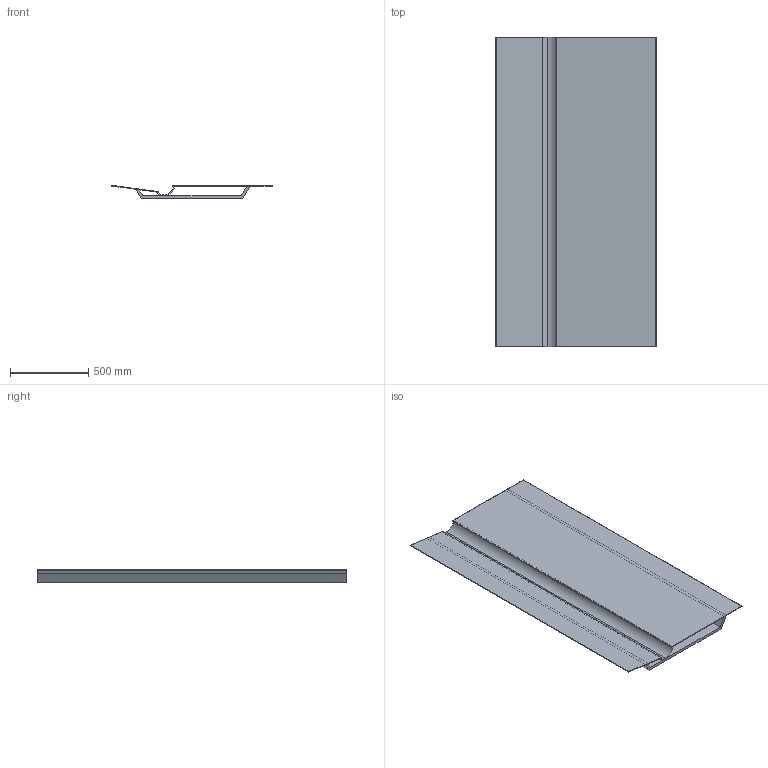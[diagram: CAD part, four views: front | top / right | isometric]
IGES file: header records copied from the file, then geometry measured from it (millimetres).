
Start section: SolidWorks IGES file using analytic representation for surfaces
Global section: file name: Y:\eforma\TECNICO\SOLIDWORKS\E-FORMA\4-SPECCHI\LET\02 parts\LET01-01-SPECCHIO LET 102,5x198.IGS; native system: SolidWorks 2022; preprocessor: SolidWorks 2022; author: eforma.tech; date: 241028.152021; units: millimetre
Bounding box: 1025 x 1980 x 84 mm (x, y, z)
Volume: 36632274.5 mm3; surface area: 7557690.5 mm2
Topology: 4 solids, 4 shells, 39 faces, 85 edges, 54 vertices
Faces by surface type: plane 26, revolution 13
